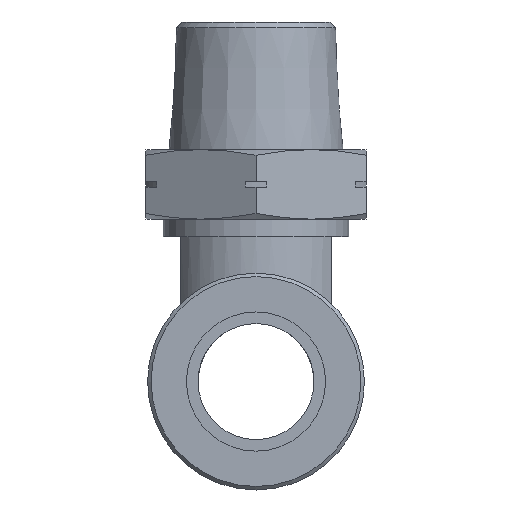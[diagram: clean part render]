
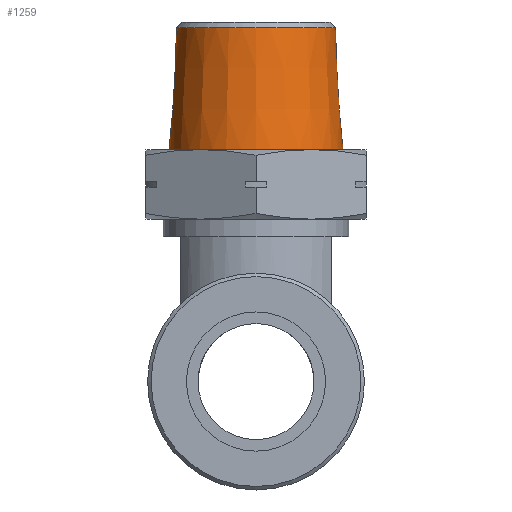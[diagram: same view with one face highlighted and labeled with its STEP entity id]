
A CAD part, front view. The second image highlights one B-rep face of the part: STEP entity #1259.
In plain terms, the highlighted conical face has half-angle 3.5 degrees and reference radius 7.164 mm.
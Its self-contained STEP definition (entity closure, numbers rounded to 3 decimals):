
#32=CONICAL_SURFACE('',#1382,7.164,0.061);
#122=FACE_OUTER_BOUND('',#204,.T.);
#204=EDGE_LOOP('',(#910,#911,#912,#913,#914));
#293=CIRCLE('',#1380,6.858);
#294=CIRCLE('',#1381,6.858);
#295=CIRCLE('',#1383,7.5);
#396=LINE('',#2056,#480);
#480=VECTOR('',#1628,7.164);
#568=VERTEX_POINT('',#2049);
#569=VERTEX_POINT('',#2051);
#570=VERTEX_POINT('',#2055);
#701=EDGE_CURVE('',#568,#569,#293,.T.);
#702=EDGE_CURVE('',#569,#568,#294,.T.);
#703=EDGE_CURVE('',#569,#570,#396,.T.);
#704=EDGE_CURVE('',#570,#570,#295,.T.);
#910=ORIENTED_EDGE('',*,*,#701,.F.);
#911=ORIENTED_EDGE('',*,*,#702,.F.);
#912=ORIENTED_EDGE('',*,*,#703,.T.);
#913=ORIENTED_EDGE('',*,*,#704,.F.);
#914=ORIENTED_EDGE('',*,*,#703,.F.);
#1259=ADVANCED_FACE('',(#122),#32,.T.);
#1380=AXIS2_PLACEMENT_3D('',#2052,#1622,#1623);
#1381=AXIS2_PLACEMENT_3D('',#2053,#1624,#1625);
#1382=AXIS2_PLACEMENT_3D('',#2054,#1626,#1627);
#1383=AXIS2_PLACEMENT_3D('',#2057,#1629,#1630);
#1622=DIRECTION('center_axis',(0.,0.,1.));
#1623=DIRECTION('ref_axis',(0.,-1.,0.));
#1624=DIRECTION('center_axis',(0.,0.,1.));
#1625=DIRECTION('ref_axis',(0.,-1.,0.));
#1626=DIRECTION('center_axis',(0.,0.,-1.));
#1627=DIRECTION('ref_axis',(0.,1.,0.));
#1628=DIRECTION('',(0.,-0.061,-0.998));
#1629=DIRECTION('center_axis',(0.,0.,-1.));
#1630=DIRECTION('ref_axis',(0.,1.,0.));
#2049=CARTESIAN_POINT('',(0.,6.858,30.501));
#2051=CARTESIAN_POINT('',(0.,-6.858,30.501));
#2052=CARTESIAN_POINT('Origin',(0.,0.,
30.501));
#2053=CARTESIAN_POINT('Origin',(0.,0.,
30.501));
#2054=CARTESIAN_POINT('Origin',(0.,0.,25.5));
#2055=CARTESIAN_POINT('',(0.,-7.5,20.));
#2056=CARTESIAN_POINT('',(0.,-7.164,25.5));
#2057=CARTESIAN_POINT('Origin',(0.,0.,20.));
